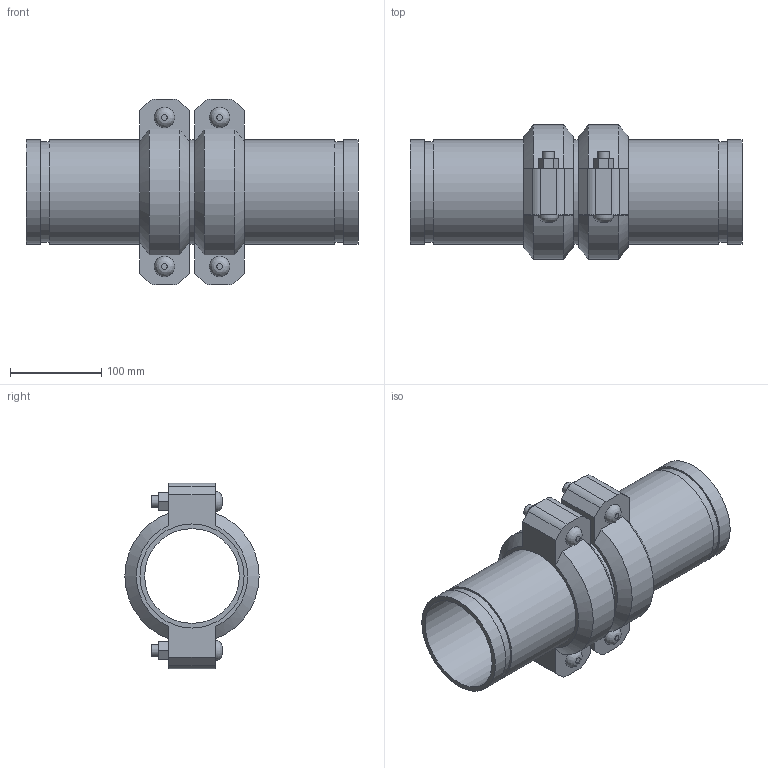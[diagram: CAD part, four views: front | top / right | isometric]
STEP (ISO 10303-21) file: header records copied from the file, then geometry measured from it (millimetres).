
FILE_DESCRIPTION(/* description */ ('VIC SS EXPANSION JOINT 2 COUPLINGS COMPRESSED STYLE 155P (OGS) (POTABLE WATER) ','CAx-IF Rec.Pracs.---Representation and Presentation of Product Manufacturing Information (PMI)---4.0---2014-10-13'),/* implementation_level */ '2;1');
FILE_NAME(/* name */ 'C:\Users\kkamble\AppData\Roaming\Autodesk\ApplicationPlugins\Victaulic.Temp\A462\Victaulic_SS_Expansion Joint_Compressed_2 Couplings_Style 155P (OGS)-Potable Water_2 Coup_Comp_4 (100).stp',/* time_stamp */ '2021-07-16T17:09:35+06:00',/* author */ ('kkamble'),/* organization */ ('Victaulic'),/* preprocessor_version */ 'ST-DEVELOPER v17.2',/* originating_system */ 'Autodesk Inventor 2019',/* authorisation */ '');
FILE_SCHEMA (('AP242_MANAGED_MODEL_BASED_3D_ENGINEERING_MIM_LF { 1 0 10303 442 1 1 4 }'));
Length unit declared in the file: inch
Products named in the file (4): 155P-04.0; Nipple-04.0; Nipple-04.0_1; 075-04.0
Assembly tree (5 placements, depth 2):
  155P-04.0
    Nipple-04.0  x2
    Nipple-04.0_1
    075-04.0  x2
Bounding box: 364.49 x 147.32 x 203.96 mm (x, y, z)
Volume: 1561376.3 mm3; surface area: 420371 mm2
Topology: 5 solids, 9 shells, 142 faces, 344 edges, 244 vertices
Faces by surface type: plane 86, cylinder 44, cone 8, bspline 4
Full cylindrical faces by diameter (mm): 12.7 x8, 14.605 x4, 103.988 x3, 110.084 x6, 114.3 x11
Entity records: 2641 total; most frequent: CARTESIAN_POINT 475, DIRECTION 435, ORIENTED_EDGE 374, EDGE_CURVE 187, AXIS2_PLACEMENT_3D 172, VERTEX_POINT 134, EDGE_LOOP 101, LINE 91
